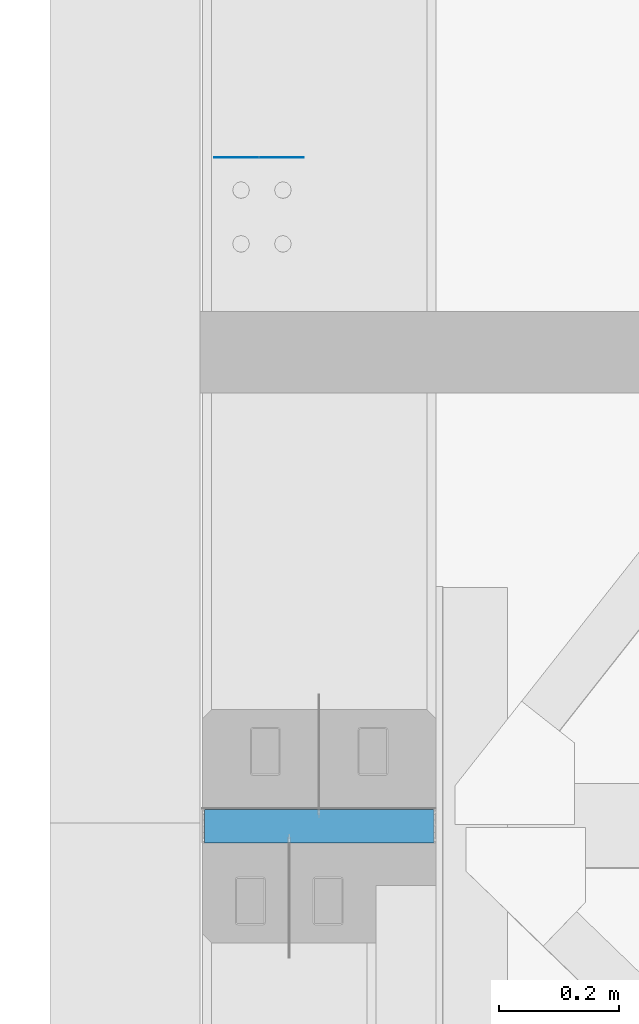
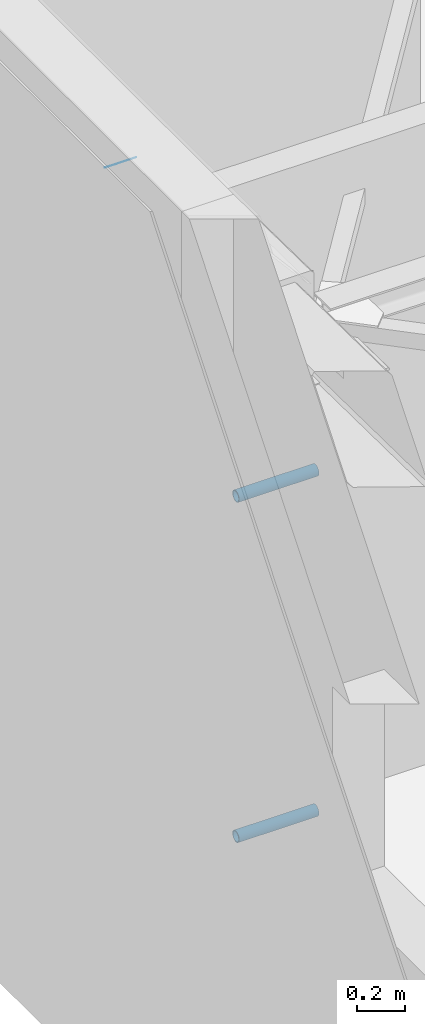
# One storey, part 13 of 186: 3 beams.
"""IFC4X3_ADD2 building model written with IfcOpenShell, lengths in millimetres."""

from ifc_helpers import new_model, si_unit, direction, frame, frame_2d, origin_with_axes, place, context, subcontext, project, spatial, rectangle, hollow_circle, extrude, material, element, save


model = new_model("IFC4X3_ADD2")

# Units and contexts
model_context = context("Model", 3, precision=1e-05, world=origin_with_axes(), true_north=direction((0.0, 1.0)))
body_context = subcontext(model_context, "Body", "Model", "MODEL_VIEW")
ifc_project = project(units=[si_unit("LENGTHUNIT", "METRE", prefix="MILLI"), si_unit("AREAUNIT", "SQUARE_METRE"), si_unit("VOLUMEUNIT", "CUBIC_METRE"), si_unit("PLANEANGLEUNIT", "RADIAN"), si_unit("TIMEUNIT", "SECOND"), si_unit("MASSUNIT", "GRAM")], contexts=[model_context])

# Site, building, storey
site_placement = place(None, origin_with_axes())
site = spatial("IfcSite", under=ifc_project, at=site_placement, Name="Site", CompositionType="ELEMENT")
building_placement = place(site_placement, origin_with_axes())
building = spatial("IfcBuilding", under=site, at=building_placement, Name="IFC Building Story")
storey_placement = place(building_placement, frame((0.0, 0.0, 4370.0), z_axis=(0.0, 0.0, 1.0), x_axis=(1.0, 0.0, 0.0)))
storey = spatial("IfcBuildingStorey", under=building, at=storey_placement, Name="ETAGE 10 (1)", Elevation=4370.0)

# Beams
ifc_material_1 = material(Name="STEEL/Accessory_invisible 261")
beam_placement = place(storey_placement, frame((33375.683164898, -6917.10209037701, 3256.97171397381), z_axis=(-1.0, 0.0, 0.0), x_axis=(0.0, 0.9998873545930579, -0.01500926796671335)))
element("IfcBeam", 1, at=beam_placement, inside=storey, material=ifc_material_1, Name="54", ObjectType="1*1 3", context=body_context, shape_type="SweptSolid", body=[
    extrude(rectangle(XDim=0.9999999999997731, YDim=0.9999999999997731, at=frame_2d((0.0, 5.95523630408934e-12), x_axis=(1.0, 0.0))), origin_with_axes(), (0.0, 0.0, 1.0), 150.0),
])
ifc_material_2 = material(Name="STEEL/Accessory_PVC")
for number, where, z_axis, x_axis, name in (
    (2, (33209.1879999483, -8035.0, 540.0), (1.0, 0.0, 0.0), (0.0, 0.0, -1.0), "PS13"),
    (3, (33209.1880000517, -8035.0, 2270.0), (1.0, 0.0, 0.0), (0.0, 0.0, -1.0), "PS13"),
):
    element("IfcBeam", number, at=place(storey_placement, frame(where, z_axis=z_axis, x_axis=x_axis)), inside=storey, material=ifc_material_2, Name=name, ObjectType="O56*3", context=body_context, shape_type="SweptSolid", body=[
        extrude(hollow_circle(Radius=28.0, WallThickness=3.0, at=frame_2d((0.0, 5.95523630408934e-12), x_axis=(1.0, 0.0))), origin_with_axes(), (0.0, 0.0, 1.0), 384.0),
    ])

save(model, "model.ifc")
